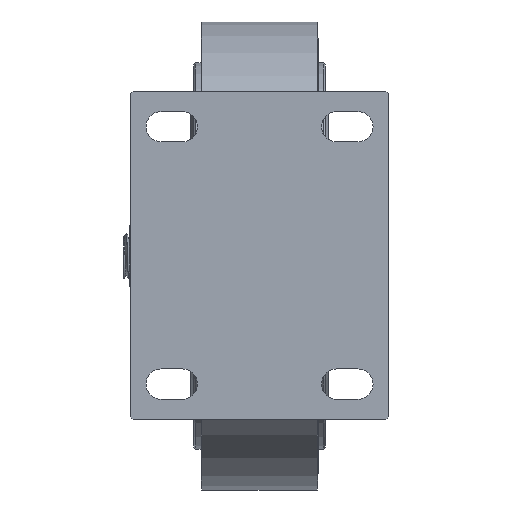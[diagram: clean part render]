
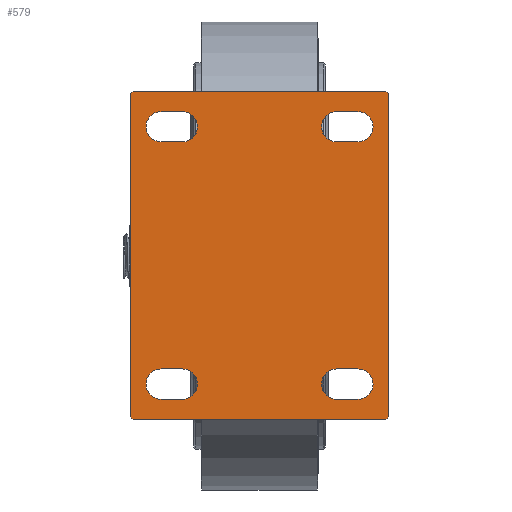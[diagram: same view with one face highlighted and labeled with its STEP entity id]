
A CAD part, top view. The second image highlights one B-rep face of the part: STEP entity #579.
In plain terms, the highlighted planar face has unit normal (0, 0, 1).
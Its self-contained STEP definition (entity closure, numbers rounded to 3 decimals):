
#136=DIRECTION('',(0.,1.,0.));
#137=VECTOR('',#136,138.);
#138=CARTESIAN_POINT('',(55.,-69.,8.));
#139=LINE('',#138,#137);
#140=DIRECTION('',(-0.707,-0.707,0.));
#141=VECTOR('',#140,1.414);
#142=CARTESIAN_POINT('',(55.,-69.,8.));
#143=LINE('',#142,#141);
#144=DIRECTION('',(1.,0.,0.));
#145=VECTOR('',#144,108.);
#146=CARTESIAN_POINT('',(-54.,-70.,8.));
#147=LINE('',#146,#145);
#148=DIRECTION('',(-0.707,0.707,0.));
#149=VECTOR('',#148,1.414);
#150=CARTESIAN_POINT('',(-54.,-70.,8.));
#151=LINE('',#150,#149);
#152=DIRECTION('',(0.,-1.,0.));
#153=VECTOR('',#152,138.);
#154=CARTESIAN_POINT('',(-55.,69.,8.));
#155=LINE('',#154,#153);
#156=DIRECTION('',(0.707,0.707,0.));
#157=VECTOR('',#156,1.414);
#158=CARTESIAN_POINT('',(-55.,69.,8.));
#159=LINE('',#158,#157);
#160=DIRECTION('',(-1.,0.,0.));
#161=VECTOR('',#160,108.);
#162=CARTESIAN_POINT('',(54.,70.,8.));
#163=LINE('',#162,#161);
#164=DIRECTION('',(0.707,-0.707,0.));
#165=VECTOR('',#164,1.414);
#166=CARTESIAN_POINT('',(54.,70.,8.));
#167=LINE('',#166,#165);
#168=DIRECTION('',(1.,0.,0.));
#169=VECTOR('',#168,9.);
#170=CARTESIAN_POINT('',(33.,61.5,8.));
#171=LINE('',#170,#169);
#172=CARTESIAN_POINT('',(33.,55.,8.));
#173=DIRECTION('',(0.,0.,-1.));
#174=DIRECTION('',(0.,-1.,0.));
#175=AXIS2_PLACEMENT_3D('',#172,#173,#174);
#177=DIRECTION('',(-1.,0.,0.));
#178=VECTOR('',#177,9.);
#179=CARTESIAN_POINT('',(42.,48.5,8.));
#180=LINE('',#179,#178);
#181=CARTESIAN_POINT('',(42.,55.,8.));
#182=DIRECTION('',(0.,0.,-1.));
#183=DIRECTION('',(0.,1.,0.));
#184=AXIS2_PLACEMENT_3D('',#181,#182,#183);
#186=CARTESIAN_POINT('',(-33.,55.,8.));
#187=DIRECTION('',(0.,0.,-1.));
#188=DIRECTION('',(0.,1.,0.));
#189=AXIS2_PLACEMENT_3D('',#186,#187,#188);
#191=DIRECTION('',(1.,0.,0.));
#192=VECTOR('',#191,9.);
#193=CARTESIAN_POINT('',(-42.,61.5,8.));
#194=LINE('',#193,#192);
#195=CARTESIAN_POINT('',(-42.,55.,8.));
#196=DIRECTION('',(0.,0.,-1.));
#197=DIRECTION('',(0.,-1.,0.));
#198=AXIS2_PLACEMENT_3D('',#195,#196,#197);
#200=DIRECTION('',(-1.,0.,0.));
#201=VECTOR('',#200,9.);
#202=CARTESIAN_POINT('',(-33.,48.5,8.));
#203=LINE('',#202,#201);
#204=DIRECTION('',(1.,0.,0.));
#205=VECTOR('',#204,9.);
#206=CARTESIAN_POINT('',(-42.,-48.5,8.));
#207=LINE('',#206,#205);
#208=CARTESIAN_POINT('',(-42.,-55.,8.));
#209=DIRECTION('',(0.,0.,-1.));
#210=DIRECTION('',(0.,-1.,0.));
#211=AXIS2_PLACEMENT_3D('',#208,#209,#210);
#213=DIRECTION('',(-1.,0.,0.));
#214=VECTOR('',#213,9.);
#215=CARTESIAN_POINT('',(-33.,-61.5,8.));
#216=LINE('',#215,#214);
#217=CARTESIAN_POINT('',(-33.,-55.,8.));
#218=DIRECTION('',(0.,0.,-1.));
#219=DIRECTION('',(0.,1.,0.));
#220=AXIS2_PLACEMENT_3D('',#217,#218,#219);
#222=CARTESIAN_POINT('',(33.,-55.,8.));
#223=DIRECTION('',(0.,0.,-1.));
#224=DIRECTION('',(0.,-1.,0.));
#225=AXIS2_PLACEMENT_3D('',#222,#223,#224);
#227=DIRECTION('',(-1.,0.,0.));
#228=VECTOR('',#227,9.);
#229=CARTESIAN_POINT('',(42.,-61.5,8.));
#230=LINE('',#229,#228);
#231=CARTESIAN_POINT('',(42.,-55.,8.));
#232=DIRECTION('',(0.,0.,-1.));
#233=DIRECTION('',(0.,1.,0.));
#234=AXIS2_PLACEMENT_3D('',#231,#232,#233);
#236=DIRECTION('',(1.,0.,0.));
#237=VECTOR('',#236,9.);
#238=CARTESIAN_POINT('',(33.,-48.5,8.));
#239=LINE('',#238,#237);
#376=CARTESIAN_POINT('',(55.,-69.,8.));
#377=CARTESIAN_POINT('',(55.,69.,8.));
#378=VERTEX_POINT('',#376);
#379=VERTEX_POINT('',#377);
#380=CARTESIAN_POINT('',(54.,70.,8.));
#381=VERTEX_POINT('',#380);
#382=CARTESIAN_POINT('',(-54.,70.,8.));
#383=VERTEX_POINT('',#382);
#384=CARTESIAN_POINT('',(-55.,69.,8.));
#385=VERTEX_POINT('',#384);
#386=CARTESIAN_POINT('',(-55.,-69.,8.));
#387=VERTEX_POINT('',#386);
#388=CARTESIAN_POINT('',(-54.,-70.,8.));
#389=VERTEX_POINT('',#388);
#390=CARTESIAN_POINT('',(54.,-70.,8.));
#391=VERTEX_POINT('',#390);
#392=CARTESIAN_POINT('',(33.,61.5,8.));
#393=CARTESIAN_POINT('',(42.,61.5,8.));
#394=VERTEX_POINT('',#392);
#395=VERTEX_POINT('',#393);
#396=CARTESIAN_POINT('',(42.,48.5,8.));
#397=VERTEX_POINT('',#396);
#398=CARTESIAN_POINT('',(33.,48.5,8.));
#399=VERTEX_POINT('',#398);
#400=CARTESIAN_POINT('',(-33.,61.5,8.));
#401=CARTESIAN_POINT('',(-33.,48.5,8.));
#402=VERTEX_POINT('',#400);
#403=VERTEX_POINT('',#401);
#404=CARTESIAN_POINT('',(-42.,48.5,8.));
#405=VERTEX_POINT('',#404);
#406=CARTESIAN_POINT('',(-42.,61.5,8.));
#407=VERTEX_POINT('',#406);
#408=CARTESIAN_POINT('',(-42.,-48.5,8.));
#409=CARTESIAN_POINT('',(-33.,-48.5,8.));
#410=VERTEX_POINT('',#408);
#411=VERTEX_POINT('',#409);
#412=CARTESIAN_POINT('',(-33.,-61.5,8.));
#413=VERTEX_POINT('',#412);
#414=CARTESIAN_POINT('',(-42.,-61.5,8.));
#415=VERTEX_POINT('',#414);
#416=CARTESIAN_POINT('',(33.,-61.5,8.));
#417=CARTESIAN_POINT('',(33.,-48.5,8.));
#418=VERTEX_POINT('',#416);
#419=VERTEX_POINT('',#417);
#420=CARTESIAN_POINT('',(42.,-48.5,8.));
#421=VERTEX_POINT('',#420);
#422=CARTESIAN_POINT('',(42.,-61.5,8.));
#423=VERTEX_POINT('',#422);
#517=CARTESIAN_POINT('',(0.,0.,8.));
#518=DIRECTION('',(0.,0.,1.));
#519=DIRECTION('',(1.,0.,0.));
#520=AXIS2_PLACEMENT_3D('',#517,#518,#519);
#521=PLANE('',#520);
#522=ORIENTED_EDGE('',*,*,#503,.F.);
#524=ORIENTED_EDGE('',*,*,#523,.T.);
#526=ORIENTED_EDGE('',*,*,#525,.F.);
#528=ORIENTED_EDGE('',*,*,#527,.T.);
#530=ORIENTED_EDGE('',*,*,#529,.F.);
#532=ORIENTED_EDGE('',*,*,#531,.T.);
#534=ORIENTED_EDGE('',*,*,#533,.F.);
#536=ORIENTED_EDGE('',*,*,#535,.T.);
#537=EDGE_LOOP('',(#522,#524,#526,#528,#530,#532,#534,#536));
#538=FACE_OUTER_BOUND('',#537,.F.);
#540=ORIENTED_EDGE('',*,*,#539,.F.);
#542=ORIENTED_EDGE('',*,*,#541,.F.);
#544=ORIENTED_EDGE('',*,*,#543,.F.);
#546=ORIENTED_EDGE('',*,*,#545,.F.);
#547=EDGE_LOOP('',(#540,#542,#544,#546));
#548=FACE_BOUND('',#547,.F.);
#550=ORIENTED_EDGE('',*,*,#549,.F.);
#552=ORIENTED_EDGE('',*,*,#551,.F.);
#554=ORIENTED_EDGE('',*,*,#553,.F.);
#556=ORIENTED_EDGE('',*,*,#555,.F.);
#557=EDGE_LOOP('',(#550,#552,#554,#556));
#558=FACE_BOUND('',#557,.F.);
#560=ORIENTED_EDGE('',*,*,#559,.F.);
#562=ORIENTED_EDGE('',*,*,#561,.F.);
#564=ORIENTED_EDGE('',*,*,#563,.F.);
#566=ORIENTED_EDGE('',*,*,#565,.F.);
#567=EDGE_LOOP('',(#560,#562,#564,#566));
#568=FACE_BOUND('',#567,.F.);
#570=ORIENTED_EDGE('',*,*,#569,.F.);
#572=ORIENTED_EDGE('',*,*,#571,.F.);
#574=ORIENTED_EDGE('',*,*,#573,.F.);
#576=ORIENTED_EDGE('',*,*,#575,.F.);
#577=EDGE_LOOP('',(#570,#572,#574,#576));
#578=FACE_BOUND('',#577,.F.);
#176=CIRCLE('',#175,6.5);
#185=CIRCLE('',#184,6.5);
#190=CIRCLE('',#189,6.5);
#199=CIRCLE('',#198,6.5);
#212=CIRCLE('',#211,6.5);
#221=CIRCLE('',#220,6.5);
#226=CIRCLE('',#225,6.5);
#235=CIRCLE('',#234,6.5);
#503=EDGE_CURVE('',#378,#379,#139,.T.);
#523=EDGE_CURVE('',#378,#391,#143,.T.);
#525=EDGE_CURVE('',#389,#391,#147,.T.);
#527=EDGE_CURVE('',#389,#387,#151,.T.);
#529=EDGE_CURVE('',#385,#387,#155,.T.);
#531=EDGE_CURVE('',#385,#383,#159,.T.);
#533=EDGE_CURVE('',#381,#383,#163,.T.);
#535=EDGE_CURVE('',#381,#379,#167,.T.);
#539=EDGE_CURVE('',#394,#395,#171,.T.);
#541=EDGE_CURVE('',#399,#394,#176,.T.);
#543=EDGE_CURVE('',#397,#399,#180,.T.);
#545=EDGE_CURVE('',#395,#397,#185,.T.);
#549=EDGE_CURVE('',#402,#403,#190,.T.);
#551=EDGE_CURVE('',#407,#402,#194,.T.);
#553=EDGE_CURVE('',#405,#407,#199,.T.);
#555=EDGE_CURVE('',#403,#405,#203,.T.);
#559=EDGE_CURVE('',#410,#411,#207,.T.);
#561=EDGE_CURVE('',#415,#410,#212,.T.);
#563=EDGE_CURVE('',#413,#415,#216,.T.);
#565=EDGE_CURVE('',#411,#413,#221,.T.);
#569=EDGE_CURVE('',#418,#419,#226,.T.);
#571=EDGE_CURVE('',#423,#418,#230,.T.);
#573=EDGE_CURVE('',#421,#423,#235,.T.);
#575=EDGE_CURVE('',#419,#421,#239,.T.);
#579=ADVANCED_FACE('',(#538,#548,#558,#568,#578),#521,.T.);
